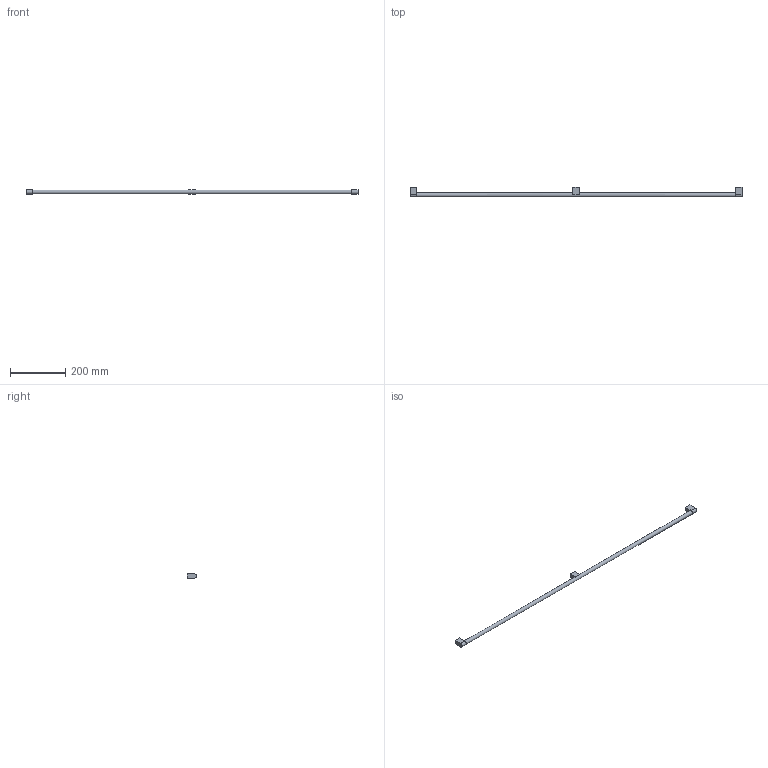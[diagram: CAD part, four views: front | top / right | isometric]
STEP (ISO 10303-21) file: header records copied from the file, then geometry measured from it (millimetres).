
FILE_DESCRIPTION( ( 'STEP AP214' ), '1' );
FILE_NAME( 'C:/Shahbaz/Shahbaz D&D/Task/Working-ON/Varna/QC/9332358.stp', '2023-08-29T07:02:21', ( '' ), ( '' ), ' ', 'PARTsolutions', ' ' );
FILE_SCHEMA( ( 'AUTOMOTIVE_DESIGN { 1 0 10303 214 1 1 1 1 }' ) );
Length unit declared in the file: millimetre
Products named in the file (1): _9332358
Bounding box: 1200 x 35.36 x 14.64 mm (x, y, z)
Volume: 210899.8 mm3; surface area: 60028.7 mm2
Topology: 1 solids, 1 shells, 26 faces, 54 edges, 36 vertices
Faces by surface type: plane 20, cylinder 6
Full cylindrical faces by diameter (mm): 6.2 x2, 6.5 x1, 14.2 x1
Entity records: 896 total; most frequent: DIRECTION 118, CARTESIAN_POINT 113, ORIENTED_EDGE 100, EDGE_CURVE 50, AXIS2_PLACEMENT_3D 41, EDGE_LOOP 36, VERTEX_POINT 36, LINE 36
